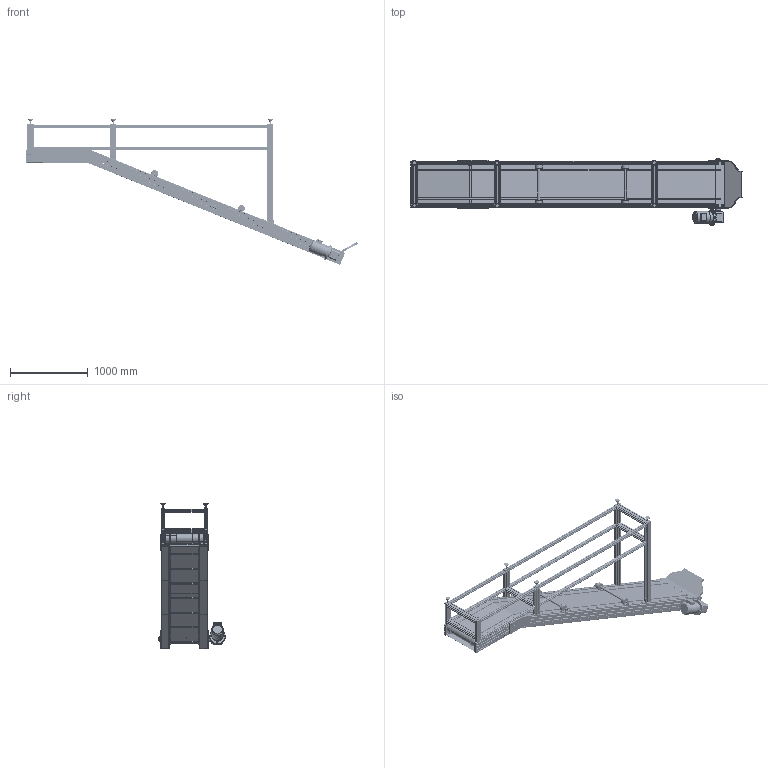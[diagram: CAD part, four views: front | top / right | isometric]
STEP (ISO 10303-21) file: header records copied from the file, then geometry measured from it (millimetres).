
FILE_DESCRIPTION(/* description */ (''),/* implementation_level */ '2;1');
FILE_NAME(/* name */ 'beltconveyor_a061_w390_l4000.stp',/* time_stamp */ '2024-12-24T22:41:53+08:00',/* author */ (''),/* organization */ (''),/* preprocessor_version */ 'ST-DEVELOPER v16.7',/* originating_system */ 'SIEMENS PLM Software NX 12.0',/* authorisation */ '');
FILE_SCHEMA (('AUTOMOTIVE_DESIGN { 1 0 10303 214 3 1 1 1 }'));
Products named in the file (65): 1; 2; 2_1; 3; 1_1; A08; A40; B6204; 80B5-550W电机; 减速机-NMRV-FB-050-1：20; A01; A09; A10; C-B6804ZZ; A20; 皮带; A03; A06; 镜向A15; A05; 镜向AL40160-380012; A02; 镜向A13; A18; A37; AL40160-380012; A13; A43; A16; M8X65; A19; AL40160-80012; A04; A14; A15; 镜向AL40160-80012; A07; A12; 镜向A03; HSC6204ZZ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
Assembly tree (104 placements, depth 5):
  beltconveyor_a061_w390_l4000
    A38
    A39
    C0-A
      AL4080-80012  x2
      40x80 -型材-350  x2
      AL4080-46812  x5
      AL4080-135012  x2
      脚杯  x6
        NFJN12-75
          2
          1
        A20
      40x40型材-983  x2
      AL4040-140012  x2
      40x40型材-2137  x2
    C0-B
      C-B6006ZZ  x2
      40x80 -型材-508  x3
      A41  x4
      A11
      A17  x2
      A42  x2
      镜向A16
      HSC6204ZZ  x8
      镜向A03
      A12
      A07
      惰轮  x2
        C-B6804ZZ
        A10
        A09
        A01
      镜向AL40160-80012
      A15
      A14  x2
      A04  x2
      AL40160-80012
      A19  x2
      M8X65  x2
      A16
      A43  x4
      A13
      AL40160-380012
      A37
      A18
      MRV050-20-FB-80B14-B3
        减速机-NMRV-FB-050-1：20
        80B5-550W电机
      镜向A13
      A02
      滚筒
        B6204  x2
        A40
        A08
      镜向AL40160-380012
      A05
      镜向A15
      A06
      A03
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Bounding box: 4261.8 x 852.96 x 1863.58 mm (x, y, z)
Volume: 90038522.6 mm3; surface area: 42811881.2 mm2
Topology: 149 solids, 149 shells, 8415 faces, 23569 edges, 15528 vertices
Faces by surface type: plane 4877, cylinder 2753, extrusion 369, cone 244, torus 162, sphere 8, bspline 2
Entity records: 190982 total; most frequent: CARTESIAN_POINT 45619, ORIENTED_EDGE 31284, DIRECTION 27809, EDGE_CURVE 15642, VECTOR 10829, LINE 10460, VERTEX_POINT 10323, AXIS2_PLACEMENT_3D 8490
